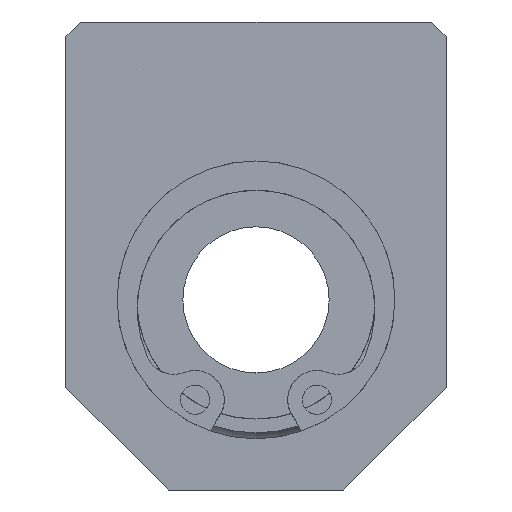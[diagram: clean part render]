
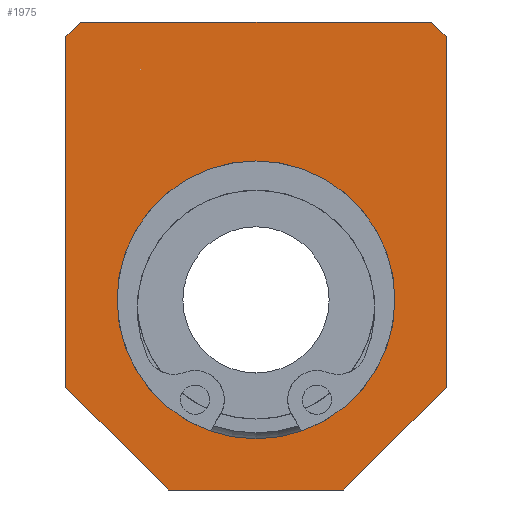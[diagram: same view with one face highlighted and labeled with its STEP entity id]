
A CAD part, left-side view. The second image highlights one B-rep face of the part: STEP entity #1975.
In plain terms, the highlighted planar face has unit normal (-1, 0, 0).
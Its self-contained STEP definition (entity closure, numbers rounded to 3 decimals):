
#1877=CARTESIAN_POINT('',(0.0,-12.,19.0));
#1878=VERTEX_POINT('',#1877);
#1885=CARTESIAN_POINT('',(0.0,-13.,18.0));
#1886=VERTEX_POINT('',#1885);
#1887=CARTESIAN_POINT('',(0.0,-12.,19.0));
#1888=DIRECTION('',(0.0,-0.707,-0.707));
#1889=VECTOR('',#1888,1.414);
#1890=LINE('',#1887,#1889);
#1891=EDGE_CURVE('',#1878,#1886,#1890,.T.);
#1902=CARTESIAN_POINT('',(0.0,0.,3.));
#1903=DIRECTION('',(1.0,0.0,0.0));
#1904=DIRECTION('',(0.0,0.0,-1.0));
#1905=AXIS2_PLACEMENT_3D('',#1902,#1903,#1904);
#1906=PLANE('',#1905);
#1907=ORIENTED_EDGE('',*,*,#1891,.F.);
#1908=CARTESIAN_POINT('',(0.0,12.,19.0));
#1909=VERTEX_POINT('',#1908);
#1910=CARTESIAN_POINT('',(0.0,-12.,19.0));
#1911=DIRECTION('',(0.0,1.0,0.0));
#1912=VECTOR('',#1911,24.);
#1913=LINE('',#1910,#1912);
#1914=EDGE_CURVE('',#1878,#1909,#1913,.T.);
#1915=ORIENTED_EDGE('',*,*,#1914,.T.);
#1916=CARTESIAN_POINT('',(0.0,13.,18.0));
#1917=VERTEX_POINT('',#1916);
#1918=CARTESIAN_POINT('',(0.0,13.,18.0));
#1919=DIRECTION('',(0.0,-0.707,0.707));
#1920=VECTOR('',#1919,1.414);
#1921=LINE('',#1918,#1920);
#1922=EDGE_CURVE('',#1917,#1909,#1921,.T.);
#1923=ORIENTED_EDGE('',*,*,#1922,.F.);
#1924=CARTESIAN_POINT('',(0.0,13.0,-6.));
#1925=VERTEX_POINT('',#1924);
#1926=CARTESIAN_POINT('',(0.0,13.,18.0));
#1927=DIRECTION('',(0.0,0.0,-1.0));
#1928=VECTOR('',#1927,24.);
#1929=LINE('',#1926,#1928);
#1930=EDGE_CURVE('',#1917,#1925,#1929,.T.);
#1931=ORIENTED_EDGE('',*,*,#1930,.T.);
#1932=CARTESIAN_POINT('',(0.0,6.,-13.));
#1933=VERTEX_POINT('',#1932);
#1934=CARTESIAN_POINT('',(0.0,6.,-13.));
#1935=DIRECTION('',(0.0,0.707,0.707));
#1936=VECTOR('',#1935,9.899);
#1937=LINE('',#1934,#1936);
#1938=EDGE_CURVE('',#1933,#1925,#1937,.T.);
#1939=ORIENTED_EDGE('',*,*,#1938,.F.);
#1940=CARTESIAN_POINT('',(0.0,-6.,-13.));
#1941=VERTEX_POINT('',#1940);
#1942=CARTESIAN_POINT('',(0.0,6.,-13.));
#1943=DIRECTION('',(0.0,-1.0,0.0));
#1944=VECTOR('',#1943,12.);
#1945=LINE('',#1942,#1944);
#1946=EDGE_CURVE('',#1933,#1941,#1945,.T.);
#1947=ORIENTED_EDGE('',*,*,#1946,.T.);
#1948=CARTESIAN_POINT('',(0.0,-13.0,-6.));
#1949=VERTEX_POINT('',#1948);
#1950=CARTESIAN_POINT('',(0.0,-13.0,-6.));
#1951=DIRECTION('',(0.0,0.707,-0.707));
#1952=VECTOR('',#1951,9.899);
#1953=LINE('',#1950,#1952);
#1954=EDGE_CURVE('',#1949,#1941,#1953,.T.);
#1955=ORIENTED_EDGE('',*,*,#1954,.F.);
#1956=CARTESIAN_POINT('',(0.0,-13.0,-6.));
#1957=DIRECTION('',(0.0,0.0,1.0));
#1958=VECTOR('',#1957,24.);
#1959=LINE('',#1956,#1958);
#1960=EDGE_CURVE('',#1949,#1886,#1959,.T.);
#1961=ORIENTED_EDGE('',*,*,#1960,.T.);
#1962=EDGE_LOOP('',(#1907,#1915,#1923,#1931,#1939,#1947,#1955,#1961));
#1963=FACE_OUTER_BOUND('',#1962,.T.);
#1964=CARTESIAN_POINT('',(0.0,9.5,0.));
#1965=VERTEX_POINT('',#1964);
#1966=CARTESIAN_POINT('',(0.0,0.0,0.0));
#1967=DIRECTION('',(1.0,0.0,0.0));
#1968=DIRECTION('',(0.0,-1.0,0.0));
#1969=AXIS2_PLACEMENT_3D('',#1966,#1967,#1968);
#1970=CIRCLE('',#1969,9.5);
#1971=EDGE_CURVE('',#1965,#1965,#1970,.T.);
#1972=ORIENTED_EDGE('',*,*,#1971,.T.);
#1973=EDGE_LOOP('',(#1972));
#1974=FACE_BOUND('',#1973,.T.);
#1975=ADVANCED_FACE('',(#1963,#1974),#1906,.F.);
